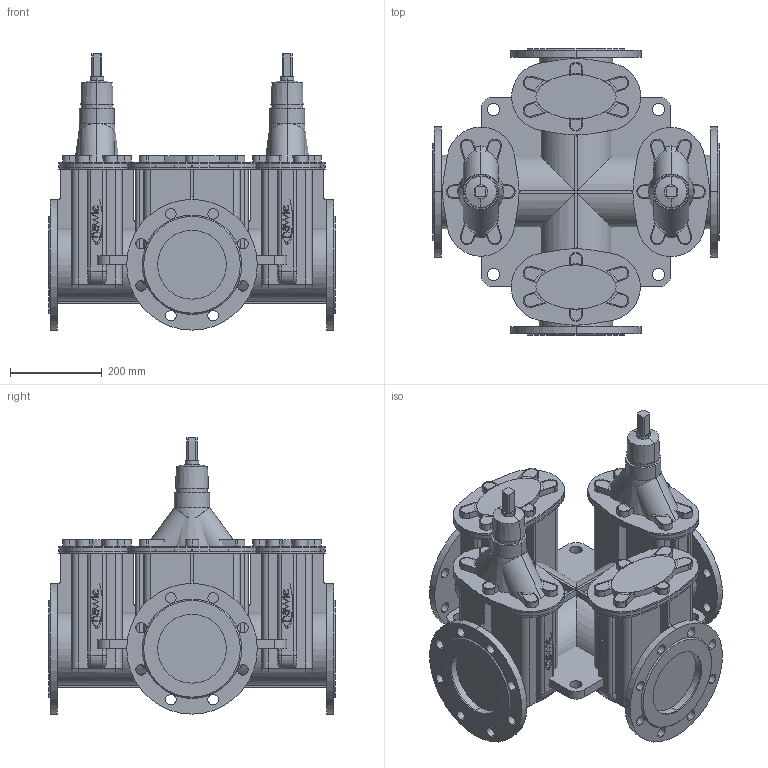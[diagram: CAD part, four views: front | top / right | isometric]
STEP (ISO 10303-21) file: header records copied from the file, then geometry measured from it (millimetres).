
FILE_DESCRIPTION(('STEP AP214'),'1');
FILE_NAME('S:/EK/USER/CAT6/3DHomepage_27-04-2012/neu_23-01-2013/4400E2/4400E2_PN16_DN150_2_9-B-3-B.STP','2013-01-23T15:09:37',(' '),(' '),'Spatial InterOp 3D',' ',' ');
FILE_SCHEMA(('automotive_design'));
Length unit declared in the file: millimetre
Products named in the file (186): 3D-Objekt
Bounding box: 625 x 625 x 602.5 mm (x, y, z)
Volume: 58552961.8 mm3; surface area: 4410812.5 mm2
Topology: 186 solids, 186 shells, 1790 faces, 4220 edges, 2810 vertices
Faces by surface type: plane 970, cylinder 768, cone 20, torus 16, bspline 16
Entity records: 70912 total; most frequent: DIRECTION 9792, CARTESIAN_POINT 9278, ORIENTED_EDGE 8440, EDGE_CURVE 4220, AXIS2_PLACEMENT_3D 3612, VERTEX_POINT 2810, LINE 2568, VECTOR 2568
